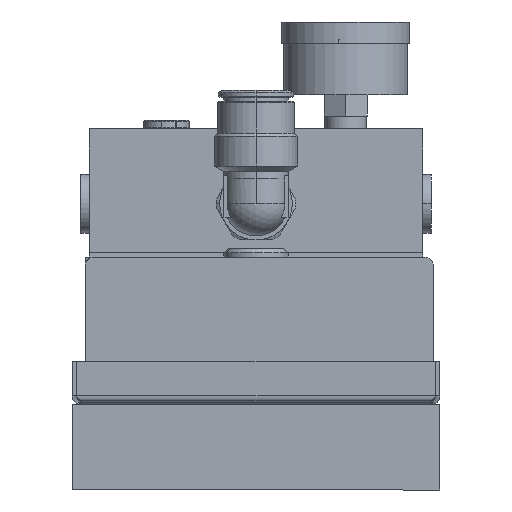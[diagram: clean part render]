
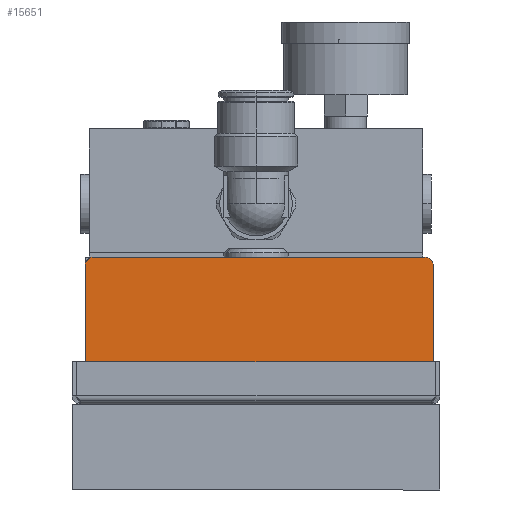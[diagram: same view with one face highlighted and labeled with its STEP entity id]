
A CAD part, front view. The second image highlights one B-rep face of the part: STEP entity #15651.
In plain terms, the highlighted planar face has unit normal (0, -1, 0).
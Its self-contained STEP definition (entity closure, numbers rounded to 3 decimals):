
#1292 = AXIS2_PLACEMENT_3D ( 'NONE', #10760, #10764, #10767 ) ;
#3584 = VERTEX_POINT ( 'NONE', #6561 ) ;
#4024 = VERTEX_POINT ( 'NONE', #18388 ) ;
#4026 = VERTEX_POINT ( 'NONE', #18381 ) ;
#4051 = VERTEX_POINT ( 'NONE', #18436 ) ;
#4132 = VERTEX_POINT ( 'NONE', #18542 ) ;
#4144 = VERTEX_POINT ( 'NONE', #18529 ) ;
#4213 = VERTEX_POINT ( 'NONE', #18853 ) ;
#5339 = VERTEX_POINT ( 'NONE', #18198 ) ;
#5718 = EDGE_LOOP ( 'NONE', ( #20532, #20516, #20318, #20629, #20388, #20329, #20609, #20618 ) ) ;
#6561 = CARTESIAN_POINT ( 'NONE',  ( 3.507, -290.496, -2.86 ) ) ;
#10738 = PLANE ( 'NONE',  #1292 ) ;
#10760 = CARTESIAN_POINT ( 'NONE',  ( -73.993, -290.496, -0.86 ) ) ;
#10764 = DIRECTION ( 'NONE',  ( 0., -1., 0. ) ) ;
#10767 = DIRECTION ( 'NONE',  ( -1., 0., 0. ) ) ;
#14425 = CARTESIAN_POINT ( 'NONE',  ( -73.993, -290.496, -0.86 ) ) ;
#14426 = DIRECTION ( 'NONE',  ( 0., 1., 0. ) ) ;
#14427 = DIRECTION ( 'NONE',  ( -1., 0., 0. ) ) ;
#14435 = CARTESIAN_POINT ( 'NONE',  ( -75.993, -290.496, -0.86 ) ) ;
#14436 = DIRECTION ( 'NONE',  ( 0., 0., 1. ) ) ;
#14442 = CARTESIAN_POINT ( 'NONE',  ( -73.993, -290.496, 25.14 ) ) ;
#14443 = DIRECTION ( 'NONE',  ( 0., 1., 0. ) ) ;
#14444 = DIRECTION ( 'NONE',  ( -1., 0., 0. ) ) ;
#14445 = DIRECTION ( 'NONE',  ( 1., 0., 0. ) ) ;
#14448 = CARTESIAN_POINT ( 'NONE',  ( -73.993, -290.496, 27.14 ) ) ;
#14459 = CARTESIAN_POINT ( 'NONE',  ( 5.507, -290.496, -0.86 ) ) ;
#14461 = CARTESIAN_POINT ( 'NONE',  ( 3.507, -290.496, 25.14 ) ) ;
#14462 = DIRECTION ( 'NONE',  ( 0., 1., 0. ) ) ;
#14463 = DIRECTION ( 'NONE',  ( 1., 0., 0. ) ) ;
#14467 = DIRECTION ( 'NONE',  ( 0., 0., -1. ) ) ;
#14472 = DIRECTION ( 'NONE',  ( -1., 0., 0. ) ) ;
#14473 = CARTESIAN_POINT ( 'NONE',  ( 3.507, -290.496, -0.86 ) ) ;
#14474 = DIRECTION ( 'NONE',  ( 0., 1., 0. ) ) ;
#14476 = DIRECTION ( 'NONE',  ( 1., 0., 0. ) ) ;
#14477 = CARTESIAN_POINT ( 'NONE',  ( -73.993, -290.496, -2.86 ) ) ;
#15651 = ADVANCED_FACE ( 'NONE', ( #16305 ), #10738, .T. ) ;
#16305 = FACE_OUTER_BOUND ( 'NONE', #5718, .T. ) ;
#18198 = CARTESIAN_POINT ( 'NONE',  ( 5.507, -290.496, 25.14 ) ) ;
#18381 = CARTESIAN_POINT ( 'NONE',  ( 5.507, -290.496, -0.86 ) ) ;
#18388 = CARTESIAN_POINT ( 'NONE',  ( -75.993, -290.496, -0.86 ) ) ;
#18436 = CARTESIAN_POINT ( 'NONE',  ( -73.993, -290.496, -2.86 ) ) ;
#18529 = CARTESIAN_POINT ( 'NONE',  ( -75.993, -290.496, 25.14 ) ) ;
#18542 = CARTESIAN_POINT ( 'NONE',  ( -73.993, -290.496, 27.14 ) ) ;
#18853 = CARTESIAN_POINT ( 'NONE',  ( 3.507, -290.496, 27.14 ) ) ;
#19463 = CIRCLE ( 'NONE', #23882, 2. ) ;
#19469 = CIRCLE ( 'NONE', #23890, 2. ) ;
#19470 = LINE ( 'NONE', #14435, #19474 ) ;
#19474 = VECTOR ( 'NONE', #14436, 1000. ) ;
#19480 = LINE ( 'NONE', #14448, #19485 ) ;
#19485 = VECTOR ( 'NONE', #14445, 1000. ) ;
#19489 = CIRCLE ( 'NONE', #23892, 2. ) ;
#19493 = LINE ( 'NONE', #14459, #19499 ) ;
#19499 = VECTOR ( 'NONE', #14467, 1000. ) ;
#19503 = CIRCLE ( 'NONE', #23897, 2. ) ;
#19508 = LINE ( 'NONE', #14477, #19512 ) ;
#19512 = VECTOR ( 'NONE', #14472, 1000. ) ;
#20318 = ORIENTED_EDGE ( 'NONE', *, *, #25719, .F. ) ;
#20329 = ORIENTED_EDGE ( 'NONE', *, *, #25709, .F. ) ;
#20388 = ORIENTED_EDGE ( 'NONE', *, *, #25713, .F. ) ;
#20516 = ORIENTED_EDGE ( 'NONE', *, *, #25722, .F. ) ;
#20532 = ORIENTED_EDGE ( 'NONE', *, *, #25699, .F. ) ;
#20609 = ORIENTED_EDGE ( 'NONE', *, *, #25706, .F. ) ;
#20618 = ORIENTED_EDGE ( 'NONE', *, *, #25703, .F. ) ;
#20629 = ORIENTED_EDGE ( 'NONE', *, *, #25716, .F. ) ;
#23882 = AXIS2_PLACEMENT_3D ( 'NONE', #14425, #14426, #14427 ) ;
#23890 = AXIS2_PLACEMENT_3D ( 'NONE', #14442, #14443, #14444 ) ;
#23892 = AXIS2_PLACEMENT_3D ( 'NONE', #14461, #14462, #14463 ) ;
#23897 = AXIS2_PLACEMENT_3D ( 'NONE', #14473, #14474, #14476 ) ;
#25699 = EDGE_CURVE ( 'NONE', #4051, #4024, #19463, .T. ) ;
#25703 = EDGE_CURVE ( 'NONE', #4024, #4144, #19470, .T. ) ;
#25706 = EDGE_CURVE ( 'NONE', #4144, #4132, #19469, .T. ) ;
#25709 = EDGE_CURVE ( 'NONE', #4132, #4213, #19480, .T. ) ;
#25713 = EDGE_CURVE ( 'NONE', #4213, #5339, #19489, .T. ) ;
#25716 = EDGE_CURVE ( 'NONE', #5339, #4026, #19493, .T. ) ;
#25719 = EDGE_CURVE ( 'NONE', #4026, #3584, #19503, .T. ) ;
#25722 = EDGE_CURVE ( 'NONE', #3584, #4051, #19508, .T. ) ;
